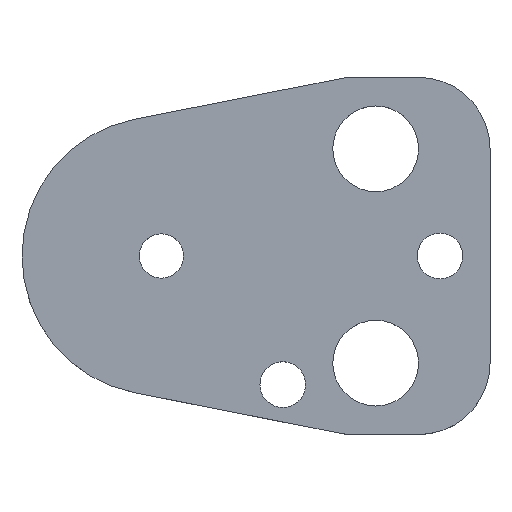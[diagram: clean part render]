
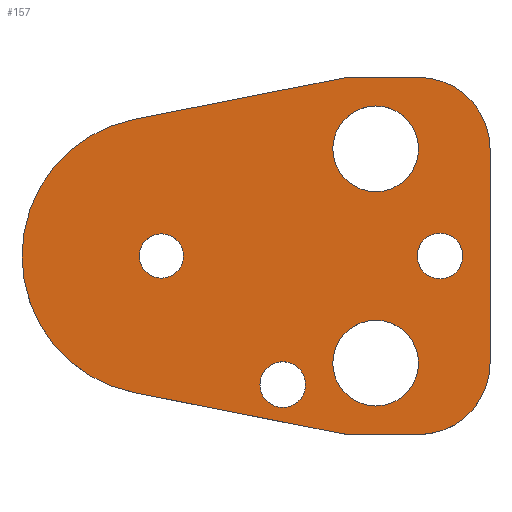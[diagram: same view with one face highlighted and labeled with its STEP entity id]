
A CAD part, top view. The second image highlights one B-rep face of the part: STEP entity #157.
In plain terms, the highlighted planar face has unit normal (0, 0, 1).
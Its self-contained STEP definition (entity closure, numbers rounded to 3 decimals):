
#103=FACE_BOUND('',#207,.T.);
#104=FACE_BOUND('',#208,.T.);
#105=FACE_BOUND('',#209,.T.);
#106=FACE_BOUND('',#210,.T.);
#107=FACE_BOUND('',#211,.T.);
#108=FACE_BOUND('',#212,.T.);
#122=CIRCLE('',#480,10.);
#124=CIRCLE('',#484,10.);
#127=CIRCLE('',#490,19.5);
#138=CIRCLE('',#503,3.2);
#139=CIRCLE('',#504,3.2);
#140=CIRCLE('',#505,6.);
#141=CIRCLE('',#506,6.);
#142=CIRCLE('',#507,6.);
#143=CIRCLE('',#508,6.);
#144=CIRCLE('',#509,3.2);
#145=CIRCLE('',#510,3.2);
#146=CIRCLE('',#511,3.1);
#147=CIRCLE('',#512,3.1);
#157=ADVANCED_FACE('',(#103,#104,#105,#106,#107,#108),#174,.T.);
#174=PLANE('',#513);
#207=EDGE_LOOP('',(#273,#274,#275,#276,#277,#278,#279,#280));
#208=EDGE_LOOP('',(#281,#282));
#209=EDGE_LOOP('',(#283,#284));
#210=EDGE_LOOP('',(#285,#286));
#211=EDGE_LOOP('',(#287,#288));
#212=EDGE_LOOP('',(#289,#290));
#273=ORIENTED_EDGE('',*,*,#368,.T.);
#274=ORIENTED_EDGE('',*,*,#372,.T.);
#275=ORIENTED_EDGE('',*,*,#375,.T.);
#276=ORIENTED_EDGE('',*,*,#378,.T.);
#277=ORIENTED_EDGE('',*,*,#381,.T.);
#278=ORIENTED_EDGE('',*,*,#384,.T.);
#279=ORIENTED_EDGE('',*,*,#387,.T.);
#280=ORIENTED_EDGE('',*,*,#390,.T.);
#281=ORIENTED_EDGE('',*,*,#401,.T.);
#282=ORIENTED_EDGE('',*,*,#402,.T.);
#283=ORIENTED_EDGE('',*,*,#403,.T.);
#284=ORIENTED_EDGE('',*,*,#404,.T.);
#285=ORIENTED_EDGE('',*,*,#405,.T.);
#286=ORIENTED_EDGE('',*,*,#406,.T.);
#287=ORIENTED_EDGE('',*,*,#407,.T.);
#288=ORIENTED_EDGE('',*,*,#408,.T.);
#289=ORIENTED_EDGE('',*,*,#409,.T.);
#290=ORIENTED_EDGE('',*,*,#410,.T.);
#332=VERTEX_POINT('',#649);
#333=VERTEX_POINT('',#651);
#336=VERTEX_POINT('',#658);
#338=VERTEX_POINT('',#664);
#340=VERTEX_POINT('',#670);
#342=VERTEX_POINT('',#676);
#344=VERTEX_POINT('',#682);
#346=VERTEX_POINT('',#688);
#357=VERTEX_POINT('',#717);
#358=VERTEX_POINT('',#718);
#359=VERTEX_POINT('',#721);
#360=VERTEX_POINT('',#722);
#361=VERTEX_POINT('',#725);
#362=VERTEX_POINT('',#726);
#363=VERTEX_POINT('',#729);
#364=VERTEX_POINT('',#730);
#365=VERTEX_POINT('',#733);
#366=VERTEX_POINT('',#734);
#368=EDGE_CURVE('',#333,#332,#422,.T.);
#372=EDGE_CURVE('',#332,#336,#426,.T.);
#375=EDGE_CURVE('',#336,#338,#122,.T.);
#378=EDGE_CURVE('',#338,#340,#430,.T.);
#381=EDGE_CURVE('',#340,#342,#124,.T.);
#384=EDGE_CURVE('',#342,#344,#434,.T.);
#387=EDGE_CURVE('',#344,#346,#437,.T.);
#390=EDGE_CURVE('',#346,#333,#127,.T.);
#401=EDGE_CURVE('',#357,#358,#138,.T.);
#402=EDGE_CURVE('',#358,#357,#139,.T.);
#403=EDGE_CURVE('',#359,#360,#140,.T.);
#404=EDGE_CURVE('',#360,#359,#141,.T.);
#405=EDGE_CURVE('',#361,#362,#142,.T.);
#406=EDGE_CURVE('',#362,#361,#143,.T.);
#407=EDGE_CURVE('',#363,#364,#144,.T.);
#408=EDGE_CURVE('',#364,#363,#145,.T.);
#409=EDGE_CURVE('',#365,#366,#146,.T.);
#410=EDGE_CURVE('',#366,#365,#147,.T.);
#422=LINE('',#650,#450);
#426=LINE('',#659,#454);
#430=LINE('',#671,#458);
#434=LINE('',#683,#462);
#437=LINE('',#689,#465);
#450=VECTOR('',#527,1.);
#454=VECTOR('',#533,1.);
#458=VECTOR('',#545,1.);
#462=VECTOR('',#557,1.);
#465=VECTOR('',#562,1.);
#480=AXIS2_PLACEMENT_3D('',#665,#538,#539);
#484=AXIS2_PLACEMENT_3D('',#677,#550,#551);
#490=AXIS2_PLACEMENT_3D('',#693,#568,#569);
#503=AXIS2_PLACEMENT_3D('',#716,#594,#595);
#504=AXIS2_PLACEMENT_3D('',#719,#596,#597);
#505=AXIS2_PLACEMENT_3D('',#720,#598,#599);
#506=AXIS2_PLACEMENT_3D('',#723,#600,#601);
#507=AXIS2_PLACEMENT_3D('',#724,#602,#603);
#508=AXIS2_PLACEMENT_3D('',#727,#604,#605);
#509=AXIS2_PLACEMENT_3D('',#728,#606,#607);
#510=AXIS2_PLACEMENT_3D('',#731,#608,#609);
#511=AXIS2_PLACEMENT_3D('',#732,#610,#611);
#512=AXIS2_PLACEMENT_3D('',#735,#612,#613);
#513=AXIS2_PLACEMENT_3D('',#736,#614,#615);
#527=DIRECTION('',(0.981,-0.193,0.));
#533=DIRECTION('',(1.,0.,0.));
#538=DIRECTION('',(0.,0.,1.));
#539=DIRECTION('',(-0.707,0.707,0.));
#545=DIRECTION('',(0.,1.,0.));
#550=DIRECTION('',(0.,0.,1.));
#551=DIRECTION('',(-0.707,-0.707,0.));
#557=DIRECTION('',(-1.,0.,0.));
#562=DIRECTION('',(-0.981,-0.193,0.));
#568=DIRECTION('',(0.,0.,1.));
#569=DIRECTION('',(1.,0.,0.));
#594=DIRECTION('',(0.,0.,-1.));
#595=DIRECTION('',(-1.,0.,0.));
#596=DIRECTION('',(0.,0.,-1.));
#597=DIRECTION('',(1.,0.,0.));
#598=DIRECTION('',(0.,0.,-1.));
#599=DIRECTION('',(-1.,0.,0.));
#600=DIRECTION('',(0.,0.,-1.));
#601=DIRECTION('',(1.,0.,0.));
#602=DIRECTION('',(0.,0.,-1.));
#603=DIRECTION('',(-1.,0.,0.));
#604=DIRECTION('',(0.,0.,-1.));
#605=DIRECTION('',(1.,0.,0.));
#606=DIRECTION('',(0.,0.,-1.));
#607=DIRECTION('',(-1.,0.,0.));
#608=DIRECTION('',(0.,0.,-1.));
#609=DIRECTION('',(1.,0.,0.));
#610=DIRECTION('',(0.,0.,-1.));
#611=DIRECTION('',(-1.,0.,0.));
#612=DIRECTION('',(0.,0.,-1.));
#613=DIRECTION('',(1.,0.,0.));
#614=DIRECTION('',(0.,0.,1.));
#615=DIRECTION('',(0.981,-0.193,0.));
#649=CARTESIAN_POINT('',(26.,-25.,6.));
#650=CARTESIAN_POINT('',(26.,-25.,6.));
#651=CARTESIAN_POINT('',(-3.771,-19.132,6.));
#658=CARTESIAN_POINT('',(36.,-25.,6.));
#659=CARTESIAN_POINT('',(26.,-25.,6.));
#664=CARTESIAN_POINT('',(46.,-15.,6.));
#665=CARTESIAN_POINT('',(36.,-15.,6.));
#670=CARTESIAN_POINT('',(46.,15.,6.));
#671=CARTESIAN_POINT('',(46.,15.,6.));
#676=CARTESIAN_POINT('',(36.,25.,6.));
#677=CARTESIAN_POINT('',(36.,15.,6.));
#682=CARTESIAN_POINT('',(26.,25.,6.));
#683=CARTESIAN_POINT('',(26.,25.,6.));
#688=CARTESIAN_POINT('',(-3.771,19.132,6.));
#689=CARTESIAN_POINT('',(26.,25.,6.));
#693=CARTESIAN_POINT('',(0.,0.,6.));
#716=CARTESIAN_POINT('',(39.,0.,6.));
#717=CARTESIAN_POINT('',(39.,3.2,6.));
#718=CARTESIAN_POINT('',(39.,-3.2,6.));
#719=CARTESIAN_POINT('',(39.,0.,6.));
#720=CARTESIAN_POINT('',(30.,15.,6.));
#721=CARTESIAN_POINT('',(30.,21.,6.));
#722=CARTESIAN_POINT('',(30.,9.,6.));
#723=CARTESIAN_POINT('',(30.,15.,6.));
#724=CARTESIAN_POINT('',(30.,-15.,6.));
#725=CARTESIAN_POINT('',(30.,-9.,6.));
#726=CARTESIAN_POINT('',(30.,-21.,6.));
#727=CARTESIAN_POINT('',(30.,-15.,6.));
#728=CARTESIAN_POINT('',(17.,-18.,6.));
#729=CARTESIAN_POINT('',(17.,-14.8,6.));
#730=CARTESIAN_POINT('',(17.,-21.2,6.));
#731=CARTESIAN_POINT('',(17.,-18.,6.));
#732=CARTESIAN_POINT('',(0.,0.,6.));
#733=CARTESIAN_POINT('',(0.,3.1,6.));
#734=CARTESIAN_POINT('',(0.,-3.1,6.));
#735=CARTESIAN_POINT('',(0.,0.,6.));
#736=CARTESIAN_POINT('',(-3.771,-19.132,6.));
